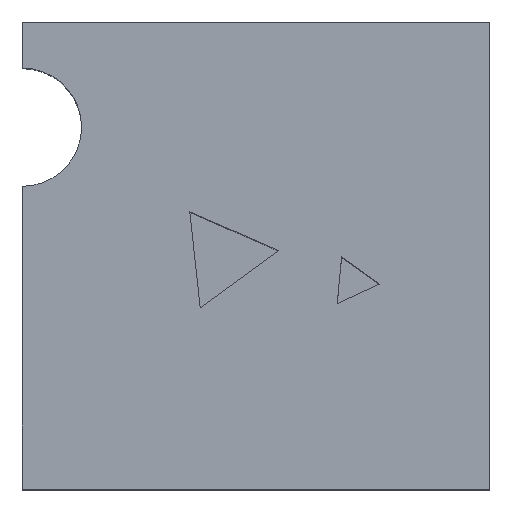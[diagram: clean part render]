
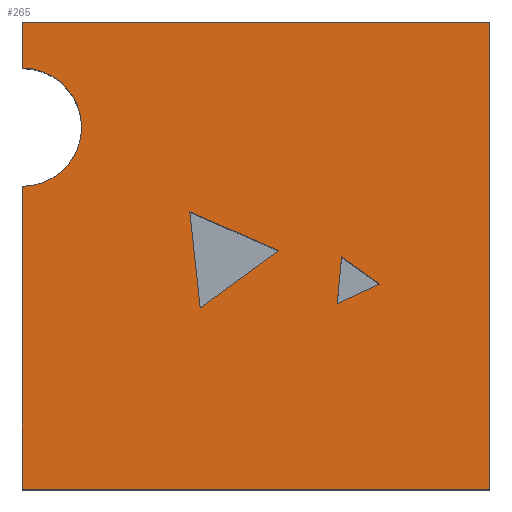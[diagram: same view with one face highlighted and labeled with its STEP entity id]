
A CAD part, top view. The second image highlights one B-rep face of the part: STEP entity #265.
In plain terms, the highlighted planar face has unit normal (0, 0, 1).
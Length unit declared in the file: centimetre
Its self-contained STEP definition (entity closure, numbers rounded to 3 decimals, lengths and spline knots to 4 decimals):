
#4 = DIRECTION ( 'NONE',  ( -0.095, -0.996, 0. ) ) ;
#7 = CIRCLE ( 'NONE', #1177, 126.5778 ) ;
#13 = CARTESIAN_POINT ( 'NONE',  ( 683.1803, 497.347, 1000. ) ) ;
#23 = ORIENTED_EDGE ( 'NONE', *, *, #967, .F. ) ;
#45 = FACE_BOUND ( 'NONE', #598, .T. ) ;
#58 = FACE_OUTER_BOUND ( 'NONE', #1013, .T. ) ;
#64 = LINE ( 'NONE', #1323, #1296 ) ;
#69 = CARTESIAN_POINT ( 'NONE',  ( 0., 0., 1000. ) ) ;
#72 = EDGE_LOOP ( 'NONE', ( #111, #485, #1286 ) ) ;
#82 = LINE ( 'NONE', #803, #1129 ) ;
#91 = CARTESIAN_POINT ( 'NONE',  ( 765.002, 439.1419, 1000. ) ) ;
#111 = ORIENTED_EDGE ( 'NONE', *, *, #1124, .F. ) ;
#162 = CARTESIAN_POINT ( 'NONE',  ( 1000., 1000., 1000. ) ) ;
#195 = CARTESIAN_POINT ( 'NONE',  ( 673.6841, 397.3847, 1000. ) ) ;
#198 = VECTOR ( 'NONE', #571, 100. ) ;
#206 = DIRECTION ( 'NONE',  ( 0., 0., 1. ) ) ;
#218 = EDGE_CURVE ( 'NONE', #1422, #716, #1337, .T. ) ;
#222 = VERTEX_POINT ( 'NONE', #281 ) ;
#259 = EDGE_CURVE ( 'NONE', #422, #326, #1454, .T. ) ;
#265 = ADVANCED_FACE ( 'NONE', ( #58, #770, #45 ), #386, .T. ) ;
#276 = CIRCLE ( 'NONE', #517, 126.5778 ) ;
#281 = CARTESIAN_POINT ( 'NONE',  ( 126.5778, 774.8932, 1000. ) ) ;
#284 = CARTESIAN_POINT ( 'NONE',  ( 547.7084, 510.6207, 1000. ) ) ;
#285 = DIRECTION ( 'NONE',  ( -0.815, 0.58, 0. ) ) ;
#291 = CARTESIAN_POINT ( 'NONE',  ( 0., 0., 1000. ) ) ;
#304 = CARTESIAN_POINT ( 'NONE',  ( 683.1803, 497.347, 1000. ) ) ;
#326 = VERTEX_POINT ( 'NONE', #304 ) ;
#334 = CARTESIAN_POINT ( 'NONE',  ( 1000., 0., 1000. ) ) ;
#343 = CARTESIAN_POINT ( 'NONE',  ( 380.533, 388.2869, 1000. ) ) ;
#347 = ORIENTED_EDGE ( 'NONE', *, *, #849, .T. ) ;
#379 = CARTESIAN_POINT ( 'NONE',  ( 0., 1000., 1000. ) ) ;
#385 = LINE ( 'NONE', #1335, #742 ) ;
#386 = PLANE ( 'NONE',  #658 ) ;
#398 = EDGE_CURVE ( 'NONE', #1339, #947, #677, .T. ) ;
#404 = EDGE_CURVE ( 'NONE', #706, #422, #427, .T. ) ;
#406 = CARTESIAN_POINT ( 'NONE',  ( 358.1765, 594.2319, 1000. ) ) ;
#417 = VECTOR ( 'NONE', #4, 100. ) ;
#422 = VERTEX_POINT ( 'NONE', #91 ) ;
#427 = LINE ( 'NONE', #1357, #683 ) ;
#485 = ORIENTED_EDGE ( 'NONE', *, *, #910, .F. ) ;
#489 = DIRECTION ( 'NONE',  ( 0.807, 0.591, 0. ) ) ;
#517 = AXIS2_PLACEMENT_3D ( 'NONE', #673, #1470, #1147 ) ;
#520 = DIRECTION ( 'NONE',  ( 0., 0., 1. ) ) ;
#525 = DIRECTION ( 'NONE',  ( -0.915, 0.404, 0. ) ) ;
#535 = DIRECTION ( 'NONE',  ( -1., 0., 0. ) ) ;
#571 = DIRECTION ( 'NONE',  ( 0., -1., 0. ) ) ;
#598 = EDGE_LOOP ( 'NONE', ( #647, #705, #23 ) ) ;
#626 = DIRECTION ( 'NONE',  ( 0.108, -0.994, 0. ) ) ;
#636 = VECTOR ( 'NONE', #626, 100. ) ;
#647 = ORIENTED_EDGE ( 'NONE', *, *, #259, .F. ) ;
#658 = AXIS2_PLACEMENT_3D ( 'NONE', #291, #520, #983 ) ;
#663 = DIRECTION ( 'NONE',  ( 0.909, 0.416, 0. ) ) ;
#673 = CARTESIAN_POINT ( 'NONE',  ( 0., 774.8932, 1000. ) ) ;
#677 = LINE ( 'NONE', #789, #1318 ) ;
#683 = VECTOR ( 'NONE', #663, 100. ) ;
#705 = ORIENTED_EDGE ( 'NONE', *, *, #404, .F. ) ;
#706 = VERTEX_POINT ( 'NONE', #195 ) ;
#716 = VERTEX_POINT ( 'NONE', #1463 ) ;
#742 = VECTOR ( 'NONE', #1441, 100. ) ;
#770 = FACE_BOUND ( 'NONE', #72, .T. ) ;
#786 = CARTESIAN_POINT ( 'NONE',  ( 0., 774.8932, 1000. ) ) ;
#789 = CARTESIAN_POINT ( 'NONE',  ( 0., 1000., 1000. ) ) ;
#803 = CARTESIAN_POINT ( 'NONE',  ( 0., 1000., 1000. ) ) ;
#820 = ORIENTED_EDGE ( 'NONE', *, *, #1060, .T. ) ;
#823 = VERTEX_POINT ( 'NONE', #334 ) ;
#833 = VECTOR ( 'NONE', #285, 100. ) ;
#839 = EDGE_CURVE ( 'NONE', #222, #947, #276, .T. ) ;
#843 = ORIENTED_EDGE ( 'NONE', *, *, #398, .T. ) ;
#849 = EDGE_CURVE ( 'NONE', #1054, #1339, #82, .T. ) ;
#861 = CARTESIAN_POINT ( 'NONE',  ( 0., 0., 1000. ) ) ;
#866 = CARTESIAN_POINT ( 'NONE',  ( 0., 1000., 1000. ) ) ;
#910 = EDGE_CURVE ( 'NONE', #716, #1036, #1388, .T. ) ;
#943 = VERTEX_POINT ( 'NONE', #1165 ) ;
#947 = VERTEX_POINT ( 'NONE', #1072 ) ;
#967 = EDGE_CURVE ( 'NONE', #326, #706, #1045, .T. ) ;
#983 = DIRECTION ( 'NONE',  ( 1., 0., 0. ) ) ;
#1009 = EDGE_CURVE ( 'NONE', #943, #1183, #1497, .T. ) ;
#1013 = EDGE_LOOP ( 'NONE', ( #1252, #1429, #1226, #820, #347, #843, #1019 ) ) ;
#1015 = DIRECTION ( 'NONE',  ( 1., 0., 0. ) ) ;
#1019 = ORIENTED_EDGE ( 'NONE', *, *, #839, .F. ) ;
#1036 = VERTEX_POINT ( 'NONE', #284 ) ;
#1045 = LINE ( 'NONE', #13, #417 ) ;
#1054 = VERTEX_POINT ( 'NONE', #162 ) ;
#1060 = EDGE_CURVE ( 'NONE', #823, #1054, #385, .T. ) ;
#1072 = CARTESIAN_POINT ( 'NONE',  ( 0., 901.471, 1000. ) ) ;
#1087 = LINE ( 'NONE', #861, #1104 ) ;
#1104 = VECTOR ( 'NONE', #1215, 100. ) ;
#1115 = EDGE_CURVE ( 'NONE', #1183, #823, #1087, .T. ) ;
#1124 = EDGE_CURVE ( 'NONE', #1036, #1422, #64, .T. ) ;
#1129 = VECTOR ( 'NONE', #535, 100. ) ;
#1147 = DIRECTION ( 'NONE',  ( 1., 0., 0. ) ) ;
#1159 = CARTESIAN_POINT ( 'NONE',  ( 358.1765, 594.2319, 1000. ) ) ;
#1165 = CARTESIAN_POINT ( 'NONE',  ( 0., 648.3154, 1000. ) ) ;
#1176 = VECTOR ( 'NONE', #489, 100. ) ;
#1177 = AXIS2_PLACEMENT_3D ( 'NONE', #786, #206, #1015 ) ;
#1183 = VERTEX_POINT ( 'NONE', #69 ) ;
#1215 = DIRECTION ( 'NONE',  ( 1., 0., 0. ) ) ;
#1226 = ORIENTED_EDGE ( 'NONE', *, *, #1115, .T. ) ;
#1252 = ORIENTED_EDGE ( 'NONE', *, *, #1430, .F. ) ;
#1286 = ORIENTED_EDGE ( 'NONE', *, *, #218, .F. ) ;
#1296 = VECTOR ( 'NONE', #525, 100. ) ;
#1318 = VECTOR ( 'NONE', #1488, 100. ) ;
#1323 = CARTESIAN_POINT ( 'NONE',  ( 547.7084, 510.6207, 1000. ) ) ;
#1331 = CARTESIAN_POINT ( 'NONE',  ( 765.002, 439.1419, 1000. ) ) ;
#1335 = CARTESIAN_POINT ( 'NONE',  ( 1000., 1000., 1000. ) ) ;
#1337 = LINE ( 'NONE', #406, #636 ) ;
#1339 = VERTEX_POINT ( 'NONE', #866 ) ;
#1357 = CARTESIAN_POINT ( 'NONE',  ( 673.6841, 397.3847, 1000. ) ) ;
#1388 = LINE ( 'NONE', #343, #1176 ) ;
#1422 = VERTEX_POINT ( 'NONE', #1159 ) ;
#1429 = ORIENTED_EDGE ( 'NONE', *, *, #1009, .T. ) ;
#1430 = EDGE_CURVE ( 'NONE', #943, #222, #7, .T. ) ;
#1441 = DIRECTION ( 'NONE',  ( 0., 1., 0. ) ) ;
#1454 = LINE ( 'NONE', #1331, #833 ) ;
#1463 = CARTESIAN_POINT ( 'NONE',  ( 380.533, 388.2869, 1000. ) ) ;
#1470 = DIRECTION ( 'NONE',  ( 0., 0., 1. ) ) ;
#1488 = DIRECTION ( 'NONE',  ( 0., -1., 0. ) ) ;
#1497 = LINE ( 'NONE', #379, #198 ) ;
